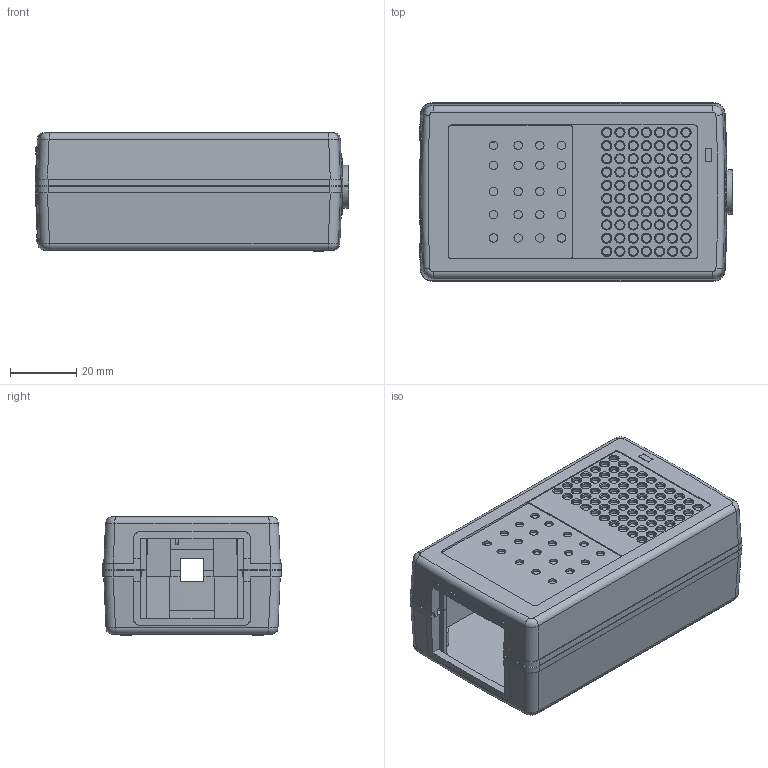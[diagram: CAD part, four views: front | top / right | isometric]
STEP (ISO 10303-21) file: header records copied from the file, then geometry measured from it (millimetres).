
FILE_DESCRIPTION(('Creo Elements/Direct Modeling STEP Export'),'2;1');
FILE_NAME('A-TYPE.stp','2015-05-04T13:08:49',(''),(''),'PTC Creo Elements/Direct Modeling STEP processor for AP214 (Solid Model)','PTC Creo Elements/Direct Modeling 19.0 09-May-2014 (C) Parametric Technology GmbH','');
FILE_SCHEMA(('AUTOMOTIVE_DESIGN { 1 0 10303 214 1 1 1 1 }'));
Length unit declared in the file: millimetre
Products named in the file (6): ADMI1F2EVRF4_1.PRT; ADMI1F2EVRF4_4.PRT; ADMI1F2EVRF4_3.PRT; ADMI1F2EVRF4.ASM; ADMI1F2EVRF4_2.PRT; A-TYPE
Assembly tree (5 placements, depth 3):
  A-TYPE
    ADMI1F2EVRF4_2.PRT
    ADMI1F2EVRF4.ASM
      ADMI1F2EVRF4_3.PRT
      ADMI1F2EVRF4_4.PRT
      ADMI1F2EVRF4_1.PRT
Bounding box: 94.8 x 54 x 35.8 mm (x, y, z)
Volume: 44647.2 mm3; surface area: 45702.5 mm2
Topology: 4 solids, 4 shells, 902 faces, 2370 edges, 1603 vertices
Faces by surface type: cone 362, plane 338, cylinder 185, torus 16, bspline 1
Entity records: 36060 total; most frequent: CARTESIAN_POINT 5682, DIRECTION 5057, ORIENTED_EDGE 4740, EDGE_CURVE 2370, AXIS2_PLACEMENT_3D 2032, VERTEX_POINT 1603, CIRCLE 1109, EDGE_LOOP 1083
